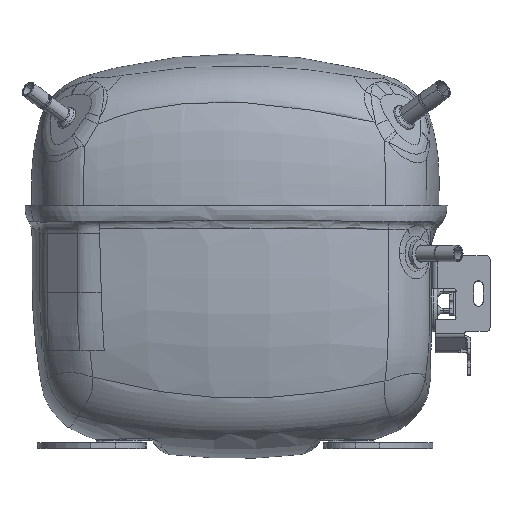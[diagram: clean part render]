
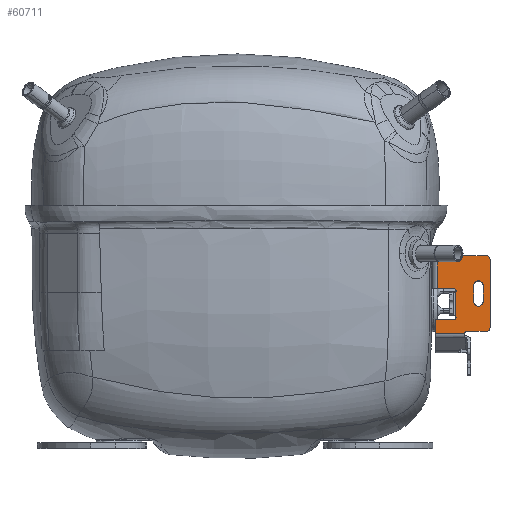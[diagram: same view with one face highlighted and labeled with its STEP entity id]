
A CAD part, top view. The second image highlights one B-rep face of the part: STEP entity #60711.
In plain terms, the highlighted planar face has unit normal (0, 0, 1) as drawn and (-1, 0, 0) by its records, which use the part's own axes.
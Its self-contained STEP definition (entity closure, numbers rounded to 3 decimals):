
#57808=DIRECTION('',(0.,0.,1.));
#57809=VECTOR('',#57808,35.);
#57810=CARTESIAN_POINT('',(-26.6,0.,-37.));
#57811=LINE('',#57810,#57809);
#57948=CARTESIAN_POINT('',(-26.6,6.,-15.5));
#57949=DIRECTION('',(-1.,0.,0.));
#57950=DIRECTION('',(0.,-1.,0.));
#57951=AXIS2_PLACEMENT_3D('',#57948,#57949,#57950);
#57953=DIRECTION('',(0.,0.,-1.));
#57954=VECTOR('',#57953,8.);
#57955=CARTESIAN_POINT('',(-26.6,8.5,-15.5));
#57956=LINE('',#57955,#57954);
#57957=CARTESIAN_POINT('',(-26.6,6.,-23.5));
#57958=DIRECTION('',(-1.,0.,0.));
#57959=DIRECTION('',(0.,1.,0.));
#57960=AXIS2_PLACEMENT_3D('',#57957,#57958,#57959);
#57962=DIRECTION('',(0.,0.,1.));
#57963=VECTOR('',#57962,8.);
#57964=CARTESIAN_POINT('',(-26.6,3.5,-23.5));
#57965=LINE('',#57964,#57963);
#57966=DIRECTION('',(0.,-1.,0.));
#57967=VECTOR('',#57966,15.);
#57968=CARTESIAN_POINT('',(-26.6,28.,-39.986));
#57969=LINE('',#57968,#57967);
#57970=DIRECTION('',(0.,-1.,0.));
#57971=VECTOR('',#57970,9.375);
#57972=CARTESIAN_POINT('',(-26.6,28.,-33.));
#57973=LINE('',#57972,#57971);
#57974=CARTESIAN_POINT('',(-26.6,18.625,-31.875));
#57975=DIRECTION('',(-1.,0.,0.));
#57976=DIRECTION('',(0.,0.,-1.));
#57977=AXIS2_PLACEMENT_3D('',#57974,#57975,#57976);
#57979=DIRECTION('',(0.,0.,1.));
#57980=VECTOR('',#57979,11.879);
#57981=CARTESIAN_POINT('',(-26.6,18.,-30.94));
#57982=LINE('',#57981,#57980);
#57983=CARTESIAN_POINT('',(-26.6,18.625,-18.125));
#57984=DIRECTION('',(-1.,0.,0.));
#57985=DIRECTION('',(0.,-0.556,-0.831));
#57986=AXIS2_PLACEMENT_3D('',#57983,#57984,#57985);
#57988=DIRECTION('',(0.,1.,0.));
#57989=VECTOR('',#57988,8.479);
#57990=CARTESIAN_POINT('',(-26.6,18.625,-17.));
#57991=LINE('',#57990,#57989);
#57992=DIRECTION('',(0.,0.,-1.));
#57993=VECTOR('',#57992,17.);
#57994=CARTESIAN_POINT('',(-26.6,27.104,0.));
#57995=LINE('',#57994,#57993);
#57996=DIRECTION('',(0.,-1.,0.));
#57997=VECTOR('',#57996,25.104);
#57998=CARTESIAN_POINT('',(-26.6,27.104,0.));
#57999=LINE('',#57998,#57997);
#58000=CARTESIAN_POINT('',(-26.6,2.,-2.));
#58001=DIRECTION('',(-1.,0.,0.));
#58002=DIRECTION('',(0.,-1.,0.));
#58003=AXIS2_PLACEMENT_3D('',#58000,#58001,#58002);
#58005=CARTESIAN_POINT('',(-26.6,2.,-37.));
#58006=DIRECTION('',(-1.,0.,0.));
#58007=DIRECTION('',(0.,0.,-1.));
#58008=AXIS2_PLACEMENT_3D('',#58005,#58006,#58007);
#58248=DIRECTION('',(0.,0.,1.));
#58249=VECTOR('',#58248,6.986);
#58250=CARTESIAN_POINT('',(-26.6,28.,-39.986));
#58251=LINE('',#58250,#58249);
#59009=DIRECTION('',(0.,-1.,0.));
#59010=VECTOR('',#59009,10.);
#59011=CARTESIAN_POINT('',(-26.6,12.,-39.));
#59012=LINE('',#59011,#59010);
#59033=CARTESIAN_POINT('',(-26.6,12.,-40.));
#59034=DIRECTION('',(1.,0.,0.));
#59035=DIRECTION('',(0.,1.,0.014));
#59036=AXIS2_PLACEMENT_3D('',#59033,#59034,#59035);
#60006=CARTESIAN_POINT('',(-26.6,3.5,-15.5));
#60007=CARTESIAN_POINT('',(-26.6,8.5,-15.5));
#60008=VERTEX_POINT('',#60006);
#60009=VERTEX_POINT('',#60007);
#60010=CARTESIAN_POINT('',(-26.6,8.5,-23.5));
#60011=VERTEX_POINT('',#60010);
#60012=CARTESIAN_POINT('',(-26.6,3.5,-23.5));
#60013=VERTEX_POINT('',#60012);
#60014=CARTESIAN_POINT('',(-26.6,28.,-33.));
#60016=VERTEX_POINT('',#60014);
#60028=CARTESIAN_POINT('',(-26.6,18.625,-33.));
#60029=VERTEX_POINT('',#60028);
#60030=CARTESIAN_POINT('',(-26.6,18.625,-17.));
#60032=VERTEX_POINT('',#60030);
#60202=CARTESIAN_POINT('',(-26.6,18.,-30.94));
#60203=CARTESIAN_POINT('',(-26.6,18.,-19.06));
#60204=VERTEX_POINT('',#60202);
#60205=VERTEX_POINT('',#60203);
#60314=CARTESIAN_POINT('',(-26.6,27.104,-17.));
#60316=VERTEX_POINT('',#60314);
#60320=CARTESIAN_POINT('',(-26.6,27.104,0.));
#60321=VERTEX_POINT('',#60320);
#60330=CARTESIAN_POINT('',(-26.6,0.,-2.));
#60331=CARTESIAN_POINT('',(-26.6,2.,0.));
#60332=VERTEX_POINT('',#60330);
#60333=VERTEX_POINT('',#60331);
#60342=CARTESIAN_POINT('',(-26.6,2.,-39.));
#60343=VERTEX_POINT('',#60342);
#60344=CARTESIAN_POINT('',(-26.6,0.,-37.));
#60345=VERTEX_POINT('',#60344);
#60403=CARTESIAN_POINT('',(-26.6,28.,-39.986));
#60405=VERTEX_POINT('',#60403);
#60440=CARTESIAN_POINT('',(-26.6,12.,-39.));
#60441=VERTEX_POINT('',#60440);
#60452=CARTESIAN_POINT('',(-26.6,13.,-39.986));
#60453=VERTEX_POINT('',#60452);
#60669=CARTESIAN_POINT('',(-26.6,0.,-41.228));
#60670=DIRECTION('',(-1.,0.,0.));
#60671=DIRECTION('',(0.,0.,1.));
#60672=AXIS2_PLACEMENT_3D('',#60669,#60670,#60671);
#60673=PLANE('',#60672);
#60675=ORIENTED_EDGE('',*,*,#60674,.F.);
#60677=ORIENTED_EDGE('',*,*,#60676,.F.);
#60679=ORIENTED_EDGE('',*,*,#60678,.F.);
#60681=ORIENTED_EDGE('',*,*,#60680,.T.);
#60683=ORIENTED_EDGE('',*,*,#60682,.T.);
#60685=ORIENTED_EDGE('',*,*,#60684,.T.);
#60687=ORIENTED_EDGE('',*,*,#60686,.T.);
#60689=ORIENTED_EDGE('',*,*,#60688,.T.);
#60691=ORIENTED_EDGE('',*,*,#60690,.T.);
#60693=ORIENTED_EDGE('',*,*,#60692,.F.);
#60695=ORIENTED_EDGE('',*,*,#60694,.T.);
#60697=ORIENTED_EDGE('',*,*,#60696,.F.);
#60698=ORIENTED_EDGE('',*,*,#60502,.F.);
#60700=ORIENTED_EDGE('',*,*,#60699,.F.);
#60701=EDGE_LOOP('',(#60675,#60677,#60679,#60681,#60683,#60685,#60687,#60689,
#60691,#60693,#60695,#60697,#60698,#60700));
#60702=FACE_OUTER_BOUND('',#60701,.F.);
#60703=ORIENTED_EDGE('',*,*,#60575,.T.);
#60705=ORIENTED_EDGE('',*,*,#60704,.T.);
#60707=ORIENTED_EDGE('',*,*,#60706,.T.);
#60708=ORIENTED_EDGE('',*,*,#60648,.T.);
#60709=EDGE_LOOP('',(#60703,#60705,#60707,#60708));
#60710=FACE_BOUND('',#60709,.F.);
#60711=ADVANCED_FACE('',(#60702,#60710),#60673,.T.);
#57952=CIRCLE('',#57951,2.5);
#57961=CIRCLE('',#57960,2.5);
#57978=CIRCLE('',#57977,1.125);
#57987=CIRCLE('',#57986,1.125);
#58004=CIRCLE('',#58003,2.);
#58009=CIRCLE('',#58008,2.);
#59037=CIRCLE('',#59036,1.);
#60502=EDGE_CURVE('',#60345,#60332,#57811,.T.);
#60575=EDGE_CURVE('',#60008,#60009,#57952,.T.);
#60648=EDGE_CURVE('',#60013,#60008,#57965,.T.);
#60674=EDGE_CURVE('',#60441,#60343,#59012,.T.);
#60676=EDGE_CURVE('',#60453,#60441,#59037,.T.);
#60678=EDGE_CURVE('',#60405,#60453,#57969,.T.);
#60680=EDGE_CURVE('',#60405,#60016,#58251,.T.);
#60682=EDGE_CURVE('',#60016,#60029,#57973,.T.);
#60684=EDGE_CURVE('',#60029,#60204,#57978,.T.);
#60686=EDGE_CURVE('',#60204,#60205,#57982,.T.);
#60688=EDGE_CURVE('',#60205,#60032,#57987,.T.);
#60690=EDGE_CURVE('',#60032,#60316,#57991,.T.);
#60692=EDGE_CURVE('',#60321,#60316,#57995,.T.);
#60694=EDGE_CURVE('',#60321,#60333,#57999,.T.);
#60696=EDGE_CURVE('',#60332,#60333,#58004,.T.);
#60699=EDGE_CURVE('',#60343,#60345,#58009,.T.);
#60704=EDGE_CURVE('',#60009,#60011,#57956,.T.);
#60706=EDGE_CURVE('',#60011,#60013,#57961,.T.);
